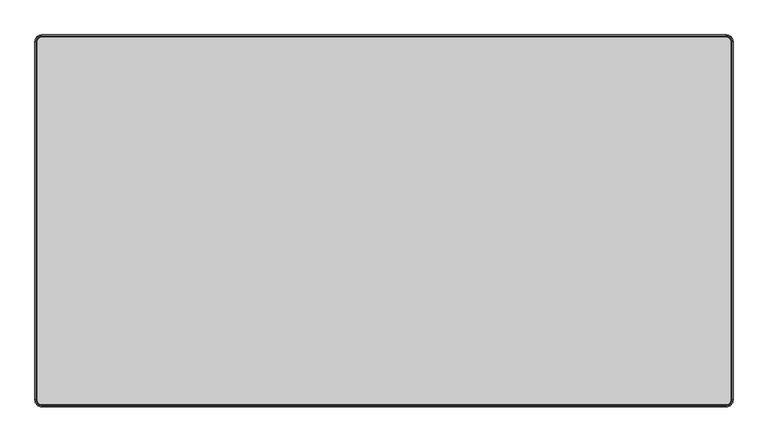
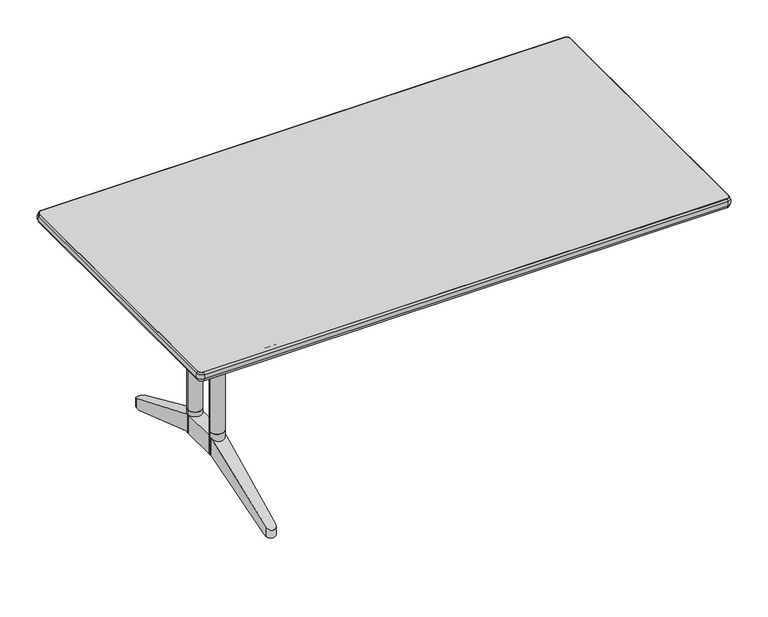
"""IFC4 building model written with IfcOpenShell, lengths in millimetres: furniture geometry."""

from ifc_helpers import new_model, si_unit, point, frame, frame_2d, origin, place, context, project, spatial, polyline, circle_curve, ellipse_curve, trimmed, segment, composite_curve, outline, extrude, source, transform, mapped, element, save
from ifc_brep_helpers import plane_surface, cylinder_surface, revolved_surface, advanced_brep


def furniture_fcad1af7(model_context):
    return source(origin(), model_context, "Body", "SolidModel", [
        extrude(outline(composite_curve([segment(trimmed(circle_curve(frame_2d((-508.0, -154.0488451)), 20.0), [point((-528.0, -154.0488451))], [point((-488.0, -154.0488451))], False, "CARTESIAN"), True, "CONTINUOUS"), segment(trimmed(circle_curve(frame_2d((-508.0, -154.0488451)), 20.0), [point((-488.0, -154.0488451))], [point((-528.0, -154.0488451))], False, "CARTESIAN"), True, "CONTINUOUS")], self_intersect=False)), frame((0.0, 0.0, 193.3080085), z_axis=(0.0, 0.0, 1.0), x_axis=(1.0, 0.0, 0.0)), (0.0, 0.0, 1.0), 68.8536941),
        extrude(outline(composite_curve([segment(trimmed(circle_curve(frame_2d((-508.0, -44.0488461)), 20.0), [point((-528.0, -44.0488461))], [point((-488.0, -44.0488461))], False, "CARTESIAN"), True, "CONTINUOUS"), segment(trimmed(circle_curve(frame_2d((-508.0, -44.0488461)), 20.0), [point((-488.0, -44.0488461))], [point((-528.0, -44.0488461))], False, "CARTESIAN"), True, "CONTINUOUS")], self_intersect=False)), frame((0.0, 0.0, 193.3080085), z_axis=(0.0, 0.0, 1.0), x_axis=(1.0, 0.0, 0.0)), (0.0, 0.0, 1.0), 68.8536941),
        extrude(outline(composite_curve([segment(trimmed(circle_curve(frame_2d((-508.0, -154.0488451)), 20.0), [point((-528.0, -154.0488451))], [point((-488.0, -154.0488451))], False, "CARTESIAN"), True, "CONTINUOUS"), segment(trimmed(circle_curve(frame_2d((-508.0, -154.0488451)), 20.0), [point((-488.0, -154.0488451))], [point((-528.0, -154.0488451))], False, "CARTESIAN"), True, "CONTINUOUS")], self_intersect=False)), frame((0.0, 0.0, 262.1617027), z_axis=(0.0, 0.0, 1.0), x_axis=(1.0, 0.0, 0.0)), (0.0, 0.0, 1.0), 318.0882973),
        extrude(outline(composite_curve([segment(trimmed(circle_curve(frame_2d((-508.0, -44.0488461)), 20.0), [point((-528.0, -44.0488461))], [point((-488.0, -44.0488461))], False, "CARTESIAN"), True, "CONTINUOUS"), segment(trimmed(circle_curve(frame_2d((-508.0, -44.0488461)), 20.0), [point((-488.0, -44.0488461))], [point((-528.0, -44.0488461))], False, "CARTESIAN"), True, "CONTINUOUS")], self_intersect=False)), frame((0.0, 0.0, 262.1617027), z_axis=(0.0, 0.0, 1.0), x_axis=(1.0, 0.0, 0.0)), (0.0, 0.0, 1.0), 318.0882973),
        extrude(outline(polyline([(-481.9999882, 147.9511612), (-481.9999882, -352.0488426), (-534.0000118, -352.0488426), (-534.0000118, 147.9511612), (-481.9999882, 147.9511612)])), frame((0.0, 0.0, 676.2500168), z_axis=(0.0, 0.0, 1.0), x_axis=(1.0, 0.0, 0.0)), (0.0, 0.0, 1.0), 27.9999624),
        advanced_brep(
        [(-522.9998762, -140.8200278, 676.2500168), (-492.9998905, -140.8201331, 676.2500168), (-492.9998905, -134.0488456, 676.2500168), (-522.9998762, -134.0488456, 676.2500168), (-492.9998905, -57.2775581, 676.2500168), (-522.9998762, -57.2776634, 676.2500168), (-522.9998762, -64.0488456, 676.2500168), (-492.9998905, -64.0488456, 676.2500168), (-522.9998762, -57.2776634, 580.25), (-492.9998905, -57.2775581, 580.25), (-492.9998905, -140.8201331, 580.25), (-522.9998762, -140.8200278, 580.25), (-522.9998762, -134.0488456, 598.2500176), (-522.9998762, -64.0488456, 598.2500176), (-492.9998905, -64.0488456, 598.2500176), (-492.9998905, -134.0488456, 598.2500176)],
        [
            (0, 1, circle_curve(frame((-507.9999298, -154.0488451, 676.2500168), z_axis=(0.0, 0.0, 1.0), x_axis=(1.0, 0.0, 0.0)), 20.0)),
            (1, 2),
            (2, 3),
            (3, 0),
            (4, 5, circle_curve(frame((-507.9999298, -44.0488461, 676.2500168), z_axis=(0.0, 0.0, 1.0), x_axis=(1.0, 0.0, 0.0)), 20.0)),
            (5, 6),
            (6, 7),
            (7, 4),
            (8, 9, circle_curve(frame((-507.9999298, -44.0488461, 580.25), z_axis=(0.0, 0.0, -1.0), x_axis=(1.0, 0.0, 0.0)), 20.0)),
            (9, 10),
            (10, 11, circle_curve(frame((-507.9999298, -154.0488451, 580.25), z_axis=(0.0, 0.0, -1.0), x_axis=(1.0, 0.0, 0.0)), 20.0)),
            (11, 8),
            (11, 0),
            (3, 12),
            (12, 13),
            (13, 6),
            (5, 8),
            (10, 1),
            (9, 4),
            (7, 14),
            (14, 15),
            (15, 2),
            (15, 12),
            (14, 13),
        ],
        [
            plane_surface(frame((-522.9998762, -140.8200278, 676.2500168), z_axis=(0.0, 0.0, 1.0), x_axis=(0.0, -1.0, 0.0))),
            plane_surface(frame((-522.9998762, -140.8200278, 580.25), z_axis=(0.0, 0.0, -1.0), x_axis=(0.0, 1.0, 0.0))),
            plane_surface(frame((-522.9998762, -57.2776634, 676.2500168), z_axis=(-1.0, 0.0, 0.0), x_axis=(0.0, 0.0, -1.0))),
            cylinder_surface(frame((-507.9999298, -154.0488451, 580.25), z_axis=(0.0, 0.0, 1.0), x_axis=(1.0, 0.0, 0.0)), 20.0),
            plane_surface(frame((-492.9998905, -140.8201331, 676.2500168), z_axis=(1.0, 0.0, 0.0), x_axis=(0.0, 0.0, -1.0))),
            cylinder_surface(frame((-507.9999298, -44.0488461, 580.25), z_axis=(0.0, 0.0, 1.0), x_axis=(1.0, 0.0, 0.0)), 20.0),
            plane_surface(frame((-492.9998905, -134.0488456, 676.2500168), z_axis=(0.0, 1.0, 0.0), x_axis=(-1.0, 0.0, 0.0))),
            plane_surface(frame((-492.9998905, -134.0488456, 598.2500176), z_axis=(0.0, 0.0, 1.0), x_axis=(-1.0, 0.0, 0.0))),
            plane_surface(frame((-492.9998905, -64.0488456, 598.2500176), z_axis=(0.0, -1.0, 0.0), x_axis=(-1.0, 0.0, 0.0))),
        ],
        [
            (0, [[1, 2, 3, 4]]),
            (0, [[5, 6, 7, 8]]),
            (1, [[9, 10, 11, 12]]),
            (2, [[-12, 13, -4, 14, 15, 16, -6, 17]]),
            (3, [[-1, -13, -11, 18]]),
            (4, [[-10, 19, -8, 20, 21, 22, -2, -18]]),
            (5, [[-5, -19, -9, -17]]),
            (6, [[23, -14, -3, -22]]),
            (7, [[-23, -21, 24, -15]]),
            (8, [[-24, -20, -7, -16]]),
        ],
    ),
        advanced_brep(
        [(-488.0000182, -154.0488451, 248.3080085), (-488.0000182, -44.0488461, 248.3080085), (-528.0000182, -44.0488461, 248.3080085), (-528.0000182, -154.0488451, 248.3080085), (-528.0000182, -44.0488461, 193.3080085), (-528.0000182, -154.0488451, 193.3080085), (-488.0000182, -154.0488451, 193.3080085), (-488.0000182, -44.0488461, 193.3080085), (-494.5271049, 208.4135103, 105.0), (-521.472897, 208.4135103, 105.0), (-521.1262294, 221.8222582, 105.0), (-494.8737706, 221.8222564, 105.0), (-521.1262294, 221.8222582, 133.4205559), (-494.8737706, 221.8222564, 133.4205567), (-488.2000412, -36.3121196, 193.3080085), (-527.7999941, -36.3121196, 193.3080085), (-494.8737706, -419.9199475, 133.4205567), (-521.1262294, -419.9199493, 133.4205559), (-494.8737706, -419.9199475, 105.0), (-494.5271049, -406.5112014, 105.0), (-488.2000412, -161.7855715, 193.3080085), (-521.1262294, -419.9199493, 105.0), (-527.7999941, -161.7855715, 193.3080085), (-521.472897, -406.5112014, 105.0)],
        [
            (0, 1),
            (1, 2),
            (2, 3),
            (3, 0),
            (2, 4),
            (4, 5),
            (5, 3),
            (0, 6),
            (6, 7),
            (7, 1),
            (8, 9),
            (9, 10),
            (10, 11, circle_curve(frame((-508.0, 221.4828948, 105.0), z_axis=(0.0, 0.0, -1.0), x_axis=(1.0, 0.0, 0.0)), 13.1306156)),
            (11, 8),
            (12, 2),
            (1, 13),
            (13, 12, ellipse_curve(frame((-508.0, 221.4828948, 133.5672007), z_axis=(0.0, 0.3966672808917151, 0.9179624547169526), x_axis=(0.0, 0.9179624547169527, -0.39666728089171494)), 14.3040878, 13.1306156)),
            (8, 14),
            (14, 15),
            (15, 9),
            (16, 0),
            (3, 17),
            (17, 16, ellipse_curve(frame((-508.0, -419.5805859, 133.5672007), z_axis=(0.0, -0.3966672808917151, 0.9179624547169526), x_axis=(0.0, -0.9179624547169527, -0.39666728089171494)), 14.3040878, 13.1306156)),
            (16, 18),
            (18, 19),
            (19, 20),
            (20, 6),
            (17, 21),
            (21, 18, circle_curve(frame((-508.0, -419.5805859, 105.0), z_axis=(0.0, 0.0, 1.0), x_axis=(1.0, 0.0, 0.0)), 13.1306156)),
            (5, 22),
            (22, 23),
            (23, 21),
            (12, 10),
            (15, 4),
            (13, 11),
            (7, 14),
            (23, 19),
            (22, 20),
        ],
        [
            plane_surface(frame((-488.0000182, -44.0488461, 248.3080085), z_axis=(0.0, 0.0, 1.0), x_axis=(0.0, 1.0, 0.0))),
            plane_surface(frame((-528.0000182, -44.0488461, 248.3080085), z_axis=(-1.0, 0.0, 0.0), x_axis=(0.0, 0.0, -1.0))),
            plane_surface(frame((-488.0000182, -154.0488451, 248.3080085), z_axis=(1.0, 0.0, 0.0), x_axis=(0.0, 0.0, -1.0))),
            plane_surface(frame((-486.6205415, 208.4135103, 105.0), z_axis=(0.0, 0.0, -1.0), x_axis=(-1.0, 0.0, 0.0))),
            plane_surface(frame((-486.6205415, 235.9511544, 127.3152182), z_axis=(0.0, 0.3966672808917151, 0.9179624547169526), x_axis=(-1.0, 0.0, 0.0))),
            plane_surface(frame((-486.6205415, -36.3121196, 193.3080085), z_axis=(0.0, -0.3394229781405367, -0.9406338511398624), x_axis=(-1.0, 0.0, 0.0))),
            plane_surface(frame((-486.6205415, -154.0488451, 248.3080085), z_axis=(0.0, -0.3966672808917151, 0.9179624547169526), x_axis=(-1.0, 0.0, 0.0))),
            plane_surface(frame((-488.0000182, -154.0488451, 249.0000084), z_axis=(0.9996659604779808, -0.025845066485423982, 0.0), x_axis=(0.0, 0.0, -1.0))),
            cylinder_surface(frame((-508.0, -419.5805859, 90.0000025), z_axis=(0.0, 0.0, -1.0), x_axis=(1.0, 0.0, 0.0)), 13.1306156),
            plane_surface(frame((-521.1262294, -419.9199493, 249.0000084), z_axis=(-0.9996659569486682, -0.025845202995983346, 0.0), x_axis=(0.0, 0.0, -1.0))),
            plane_surface(frame((-528.0000182, -44.0488461, 249.0000084), z_axis=(-0.9996659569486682, 0.025845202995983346, 0.0), x_axis=(0.0, 0.0, -1.0))),
            cylinder_surface(frame((-508.0, 221.4828948, 0.0), z_axis=(0.0, 0.0, -1.0), x_axis=(1.0, 0.0, 0.0)), 13.1306156),
            plane_surface(frame((-494.8737706, 221.8222564, 249.0000084), z_axis=(0.9996659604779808, 0.025845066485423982, 0.0), x_axis=(0.0, 0.0, -1.0))),
            plane_surface(frame((-486.6205415, -434.0488456, 105.0), z_axis=(0.0, 0.0, -1.0), x_axis=(-1.0, 0.0, 0.0))),
            plane_surface(frame((-486.6205415, -406.5112014, 105.0), z_axis=(0.0, 0.3394229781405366, -0.9406338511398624), x_axis=(-1.0, 0.0, 0.0))),
            plane_surface(frame((-486.6205415, -44.0488461, 193.3080085), z_axis=(0.0, 0.0, -1.0), x_axis=(-1.0, 0.0, 0.0))),
        ],
        [
            (0, [[1, 2, 3, 4]]),
            (1, [[-3, 5, 6, 7]]),
            (2, [[-1, 8, 9, 10]]),
            (3, [[11, 12, 13, 14]]),
            (4, [[15, -2, 16, 17]]),
            (5, [[-11, 18, 19, 20]]),
            (6, [[21, -4, 22, 23]]),
            (7, [[24, 25, 26, 27, -8, -21]]),
            (8, [[-24, -23, 28, 29]]),
            (9, [[-28, -22, -7, 30, 31, 32]]),
            (10, [[33, -12, -20, 34, -5, -15]]),
            (11, [[-33, -17, 35, -13]]),
            (12, [[-35, -16, -10, 36, -18, -14]]),
            (13, [[37, -25, -29, -32]]),
            (14, [[-37, -31, 38, -26]]),
            (15, [[-19, -36, -9, -27, -38, -30, -6, -34]]),
        ],
    ),
        extrude(outline(composite_curve([segment(trimmed(circle_curve(frame_2d((-747.0, 292.3511544)), 10.0), [point((-757.0, 292.3511544))], [point((-747.0, 302.3511544))], False, "CARTESIAN"), True, "CONTINUOUS"), segment(polyline([(-747.0, 302.3511544), (747.0, 302.3511544)]), True, "CONTINUOUS"), segment(trimmed(circle_curve(frame_2d((747.0, 292.3511544)), 10.0), [point((747.0, 302.3511544))], [point((757.0, 292.3511544))], False, "CARTESIAN"), True, "CONTINUOUS"), segment(polyline([(757.0, 292.3511544), (757.0, -490.4488456)]), True, "CONTINUOUS"), segment(trimmed(circle_curve(frame_2d((747.0, -490.4488456)), 10.0), [point((757.0, -490.4488456))], [point((747.0, -500.4488456))], False, "CARTESIAN"), True, "CONTINUOUS"), segment(polyline([(747.0, -500.4488456), (-747.0, -500.4488456)]), True, "CONTINUOUS"), segment(trimmed(circle_curve(frame_2d((-747.0, -490.4488456)), 10.0), [point((-747.0, -500.4488456))], [point((-757.0, -490.4488456))], False, "CARTESIAN"), True, "CONTINUOUS"), segment(polyline([(-757.0, -490.4488456), (-757.0, 292.3511544)]), True, "CONTINUOUS")], self_intersect=False)), frame((0.0, 0.0, 704.2499792), z_axis=(0.0, 0.0, 1.0), x_axis=(1.0, 0.0, 0.0)), (0.0, 0.0, 1.0), 26.0000208),
        extrude(outline(composite_curve([segment(trimmed(circle_curve(frame_2d((690.249998, -508.0)), 3.5), [point((686.749998, -508.0))], [point((693.749998, -508.0))], False, "CARTESIAN"), True, "CONTINUOUS"), segment(trimmed(circle_curve(frame_2d((690.249998, -508.0)), 3.5), [point((693.749998, -508.0))], [point((686.749998, -508.0))], False, "CARTESIAN"), True, "CONTINUOUS")], self_intersect=False)), frame((0.0, -431.8394749, 0.0), z_axis=(0.0, 1.0, 0.0), x_axis=(0.0, 0.0, 1.0)), (0.0, 0.0, 1.0), 79.7906323),
        extrude(outline(composite_curve([segment(trimmed(circle_curve(frame_2d((690.249998, 508.0)), 3.5), [point((686.749998, 508.0))], [point((693.749998, 508.0))], False, "CARTESIAN"), True, "CONTINUOUS"), segment(trimmed(circle_curve(frame_2d((690.249998, 508.0)), 3.5), [point((693.749998, 508.0))], [point((686.749998, 508.0))], False, "CARTESIAN"), True, "CONTINUOUS")], self_intersect=False)), frame((0.0, -431.8394749, 0.0), z_axis=(0.0, 1.0, 0.0), x_axis=(0.0, 0.0, 1.0)), (0.0, 0.0, 1.0), 79.7906323),
        advanced_brep(
        [(-747.0, -500.4488456, 704.2499792), (-757.0, -490.4488456, 704.2499792), (-757.0, -490.4488456, 730.25), (-747.0, -500.4488456, 730.25), (-747.0, -503.8983863, 710.6562743), (-760.4495407, -490.4488456, 710.6562743), (-758.2436764, -490.4488456, 704.2499792), (-747.0, -501.692522, 704.2499792), (-747.0, -503.8983863, 723.843705), (-760.4495407, -490.4488456, 723.843705), (-747.0, -501.692522, 730.25), (-758.2436764, -490.4488456, 730.25), (747.0, -500.4488456, 730.25), (747.0, -500.4488456, 704.2499792), (747.0, -501.692522, 704.2499792), (747.0, -503.8983863, 710.6562743), (747.0, -503.8983863, 723.843705), (747.0, -501.692522, 730.25), (757.0, -490.4488456, 704.2499792), (757.0, -490.4488456, 730.25), (760.4495407, -490.4488456, 710.6562743), (758.2436764, -490.4488456, 704.2499792), (760.4495407, -490.4488456, 723.843705), (758.2436764, -490.4488456, 730.25), (757.0, 292.3511544, 730.25), (757.0, 292.3511544, 704.2499792), (758.2436764, 292.3511544, 704.2499792), (760.4495407, 292.3511544, 710.6562743), (760.4495407, 292.3511544, 723.843705), (758.2436764, 292.3511544, 730.25), (747.0, 302.3511544, 704.2499792), (747.0, 302.3511544, 730.25), (747.0, 305.8006952, 710.6562743), (747.0, 303.5948309, 704.2499792), (747.0, 305.8006952, 723.843705), (747.0, 303.5948309, 730.25), (-747.0, 302.3511544, 730.25), (-747.0, 302.3511544, 704.2499792), (-747.0, 303.5948309, 704.2499792), (-747.0, 305.8006952, 710.6562743), (-747.0, 305.8006952, 723.843705), (-747.0, 303.5948309, 730.25), (-757.0, 292.3511544, 704.2499792), (-757.0, 292.3511544, 730.25), (-760.4495407, 292.3511544, 710.6562743), (-758.2436764, 292.3511544, 704.2499792), (-760.4495407, 292.3511544, 723.843705), (-758.2436764, 292.3511544, 730.25)],
        [
            (0, 1, circle_curve(frame((-747.0, -490.4488456, 704.2499792), z_axis=(0.0, 0.0, -1.0), x_axis=(-1.0, 0.0, 0.0)), 10.0)),
            (1, 2),
            (2, 3, circle_curve(frame((-747.0, -490.4488456, 730.25), z_axis=(0.0, 0.0, 1.0), x_axis=(-1.0, 0.0, 0.0)), 10.0)),
            (3, 0),
            (4, 5, circle_curve(frame((-747.0, -490.4488456, 710.6562743), z_axis=(0.0, 0.0, -1.0), x_axis=(-1.0, 0.0, 0.0)), 13.4495407)),
            (5, 6),
            (6, 7, circle_curve(frame((-747.0, -490.4488456, 704.2499792), z_axis=(0.0, 0.0, 1.0), x_axis=(-1.0, 0.0, 0.0)), 11.2436764)),
            (7, 4),
            (8, 9, circle_curve(frame((-747.0, -490.4488456, 723.843705), z_axis=(0.0, 0.0, -1.0), x_axis=(-1.0, 0.0, 0.0)), 13.4495407)),
            (9, 5, circle_curve(frame((-747.2040596, -490.4488456, 717.2499896), z_axis=(0.0, -1.0, 0.0), x_axis=(1.0, 0.0, 0.0)), 14.7959404)),
            (4, 8, circle_curve(frame((-747.0, -490.6529051, 717.2499896), z_axis=(-1.0, 0.0, 0.0), x_axis=(0.0, 1.0, 0.0)), 14.7959404)),
            (10, 11, circle_curve(frame((-747.0, -490.4488456, 730.25), z_axis=(0.0, 0.0, -1.0), x_axis=(-1.0, 0.0, 0.0)), 11.2436764)),
            (11, 9),
            (8, 10),
            (3, 12),
            (12, 13),
            (13, 0),
            (7, 14),
            (14, 15),
            (15, 4),
            (15, 16, circle_curve(frame((747.0, -490.6529051, 717.2499896), z_axis=(-1.0, 0.0, 0.0), x_axis=(0.0, 1.0, 0.0)), 14.7959404)),
            (16, 8),
            (16, 17),
            (17, 10),
            (18, 13, circle_curve(frame((747.0, -490.4488456, 704.2499792), z_axis=(0.0, 0.0, -1.0), x_axis=(0.0, -1.0, 0.0)), 10.0)),
            (12, 19, circle_curve(frame((747.0, -490.4488456, 730.25), z_axis=(0.0, 0.0, 1.0), x_axis=(0.0, -1.0, 0.0)), 10.0)),
            (19, 18),
            (20, 15, circle_curve(frame((747.0, -490.4488456, 710.6562743), z_axis=(0.0, 0.0, -1.0), x_axis=(0.0, -1.0, 0.0)), 13.4495407)),
            (14, 21, circle_curve(frame((747.0, -490.4488456, 704.2499792), z_axis=(0.0, 0.0, 1.0), x_axis=(0.0, -1.0, 0.0)), 11.2436764)),
            (21, 20),
            (22, 16, circle_curve(frame((747.0, -490.4488456, 723.843705), z_axis=(0.0, 0.0, -1.0), x_axis=(0.0, -1.0, 0.0)), 13.4495407)),
            (20, 22, circle_curve(frame((747.2040596, -490.4488456, 717.2499896), z_axis=(0.0, -1.0, 0.0), x_axis=(-1.0, 0.0, 0.0)), 14.7959404)),
            (23, 17, circle_curve(frame((747.0, -490.4488456, 730.25), z_axis=(0.0, 0.0, -1.0), x_axis=(0.0, -1.0, 0.0)), 11.2436764)),
            (22, 23),
            (19, 24),
            (24, 25),
            (25, 18),
            (21, 26),
            (26, 27),
            (27, 20),
            (27, 28, circle_curve(frame((747.2040596, 292.3511544, 717.2499896), z_axis=(0.0, -1.0, 0.0), x_axis=(-1.0, 0.0, 0.0)), 14.7959404)),
            (28, 22),
            (28, 29),
            (29, 23),
            (30, 25, circle_curve(frame((747.0, 292.3511544, 704.2499792), z_axis=(0.0, 0.0, -1.0), x_axis=(1.0, 0.0, 0.0)), 10.0)),
            (24, 31, circle_curve(frame((747.0, 292.3511544, 730.25), z_axis=(0.0, 0.0, 1.0), x_axis=(1.0, 0.0, 0.0)), 10.0)),
            (31, 30),
            (32, 27, circle_curve(frame((747.0, 292.3511544, 710.6562743), z_axis=(0.0, 0.0, -1.0), x_axis=(1.0, 0.0, 0.0)), 13.4495407)),
            (26, 33, circle_curve(frame((747.0, 292.3511544, 704.2499792), z_axis=(0.0, 0.0, 1.0), x_axis=(1.0, 0.0, 0.0)), 11.2436764)),
            (33, 32),
            (34, 28, circle_curve(frame((747.0, 292.3511544, 723.843705), z_axis=(0.0, 0.0, -1.0), x_axis=(1.0, 0.0, 0.0)), 13.4495407)),
            (32, 34, circle_curve(frame((747.0, 292.555214, 717.2499896), z_axis=(1.0, 0.0, 0.0), x_axis=(0.0, -1.0, 0.0)), 14.7959404)),
            (35, 29, circle_curve(frame((747.0, 292.3511544, 730.25), z_axis=(0.0, 0.0, -1.0), x_axis=(1.0, 0.0, 0.0)), 11.2436764)),
            (34, 35),
            (31, 36),
            (36, 37),
            (37, 30),
            (33, 38),
            (38, 39),
            (39, 32),
            (39, 40, circle_curve(frame((-747.0, 292.555214, 717.2499896), z_axis=(1.0, 0.0, 0.0), x_axis=(0.0, -1.0, 0.0)), 14.7959404)),
            (40, 34),
            (40, 41),
            (41, 35),
            (42, 37, circle_curve(frame((-747.0, 292.3511544, 704.2499792), z_axis=(0.0, 0.0, -1.0), x_axis=(0.0, 1.0, 0.0)), 10.0)),
            (36, 43, circle_curve(frame((-747.0, 292.3511544, 730.25), z_axis=(0.0, 0.0, 1.0), x_axis=(0.0, 1.0, 0.0)), 10.0)),
            (43, 42),
            (44, 39, circle_curve(frame((-747.0, 292.3511544, 710.6562743), z_axis=(0.0, 0.0, -1.0), x_axis=(0.0, 1.0, 0.0)), 13.4495407)),
            (38, 45, circle_curve(frame((-747.0, 292.3511544, 704.2499792), z_axis=(0.0, 0.0, 1.0), x_axis=(0.0, 1.0, 0.0)), 11.2436764)),
            (45, 44),
            (46, 40, circle_curve(frame((-747.0, 292.3511544, 723.843705), z_axis=(0.0, 0.0, -1.0), x_axis=(0.0, 1.0, 0.0)), 13.4495407)),
            (44, 46, circle_curve(frame((-747.2040596, 292.3511544, 717.2499896), z_axis=(0.0, 1.0, 0.0), x_axis=(1.0, 0.0, 0.0)), 14.7959404)),
            (47, 41, circle_curve(frame((-747.0, 292.3511544, 730.25), z_axis=(0.0, 0.0, -1.0), x_axis=(0.0, 1.0, 0.0)), 11.2436764)),
            (46, 47),
            (43, 2),
            (1, 42),
            (45, 6),
            (5, 44),
            (9, 46),
            (11, 47),
        ],
        [
            revolved_surface(polyline([(-757.0, -490.4488456, 730.25), (-757.0, -490.4488456, 704.2499792)]), (-747.0, -490.4488456, 730.25), (0.0, 0.0, 1.0)),
            revolved_surface(polyline([(-758.2436764, -490.4488456, 704.2499792), (-760.4495407, -490.4488456, 710.6562743)]), (-747.0, -490.4488456, 730.25), (0.0, 0.0, 1.0)),
            revolved_surface(trimmed(ellipse_curve(frame((-747.2040596, -490.4488456, 717.2499896), z_axis=(0.0, 1.0, 0.0), x_axis=(1.0, 0.0, 0.0)), 14.7959404, 14.7959404), [point((-760.4495407, -490.4488456, 710.6562743))], [point((-760.4495407, -490.4488456, 723.843705))], True, "CARTESIAN"), (-747.0, -490.4488456, 730.25), (0.0, 0.0, 1.0)),
            revolved_surface(polyline([(-760.4495407, -490.4488456, 723.843705), (-758.2436764, -490.4488456, 730.25)]), (-747.0, -490.4488456, 730.25), (0.0, 0.0, 1.0)),
            plane_surface(frame((-747.0, -500.4488456, 730.25), z_axis=(0.0, 1.0, 0.0), x_axis=(1.0, 0.0, 0.0))),
            plane_surface(frame((-747.0, -501.692522, 704.2499792), z_axis=(0.0, -0.9455185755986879, -0.32556815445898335), x_axis=(1.0, 0.0, 0.0))),
            cylinder_surface(frame((-747.0, -490.6529051, 717.2499896), z_axis=(-1.0, 0.0, 0.0), x_axis=(0.0, 1.0, 0.0)), 14.7959404),
            plane_surface(frame((-747.0, -503.8983863, 723.843705), z_axis=(0.0, -0.945518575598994, 0.32556815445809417), x_axis=(1.0, 0.0, 0.0))),
            revolved_surface(polyline([(747.0, -500.4488456, 730.25), (747.0, -500.4488456, 704.2499792)]), (747.0, -490.4488456, 730.25), (0.0, 0.0, 1.0)),
            revolved_surface(polyline([(747.0, -501.692522, 704.2499792), (747.0, -503.8983863, 710.6562743)]), (747.0, -490.4488456, 730.25), (0.0, 0.0, 1.0)),
            revolved_surface(trimmed(ellipse_curve(frame((747.0, -490.6529051, 717.2499896), z_axis=(-1.0, 0.0, 0.0), x_axis=(0.0, 1.0, 0.0)), 14.7959404, 14.7959404), [point((747.0, -503.8983863, 710.6562743))], [point((747.0, -503.8983863, 723.843705))], True, "CARTESIAN"), (747.0, -490.4488456, 730.25), (0.0, 0.0, 1.0)),
            revolved_surface(polyline([(747.0, -503.8983863, 723.843705), (747.0, -501.692522, 730.25)]), (747.0, -490.4488456, 730.25), (0.0, 0.0, 1.0)),
            plane_surface(frame((757.0, -490.4488456, 730.25), z_axis=(-1.0, 0.0, 0.0), x_axis=(0.0, 1.0, 0.0))),
            plane_surface(frame((758.2436764, -490.4488456, 704.2499792), z_axis=(0.9455185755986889, 0.0, -0.32556815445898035), x_axis=(0.0, 1.0, 0.0))),
            cylinder_surface(frame((747.2040596, -490.4488456, 717.2499896), z_axis=(0.0, -1.0, 0.0), x_axis=(-1.0, 0.0, 0.0)), 14.7959404),
            plane_surface(frame((760.4495407, -490.4488456, 723.843705), z_axis=(0.945518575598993, 0.0, 0.32556815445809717), x_axis=(0.0, 1.0, 0.0))),
            revolved_surface(polyline([(757.0, 292.3511544, 730.25), (757.0, 292.3511544, 704.2499792)]), (747.0, 292.3511544, 730.25), (0.0, 0.0, 1.0)),
            revolved_surface(polyline([(758.2436764, 292.3511544, 704.2499792), (760.4495407, 292.3511544, 710.6562743)]), (747.0, 292.3511544, 730.25), (0.0, 0.0, 1.0)),
            revolved_surface(trimmed(ellipse_curve(frame((747.2040596, 292.3511544, 717.2499896), z_axis=(0.0, -1.0, 0.0), x_axis=(-1.0, 0.0, 0.0)), 14.7959404, 14.7959404), [point((760.4495407, 292.3511544, 710.6562743))], [point((760.4495407, 292.3511544, 723.843705))], True, "CARTESIAN"), (747.0, 292.3511544, 730.25), (0.0, 0.0, 1.0)),
            revolved_surface(polyline([(760.4495407, 292.3511544, 723.843705), (758.2436764, 292.3511544, 730.25)]), (747.0, 292.3511544, 730.25), (0.0, 0.0, 1.0)),
            plane_surface(frame((747.0, 302.3511544, 730.25), z_axis=(0.0, -1.0, 0.0), x_axis=(-1.0, 0.0, 0.0))),
            plane_surface(frame((747.0, 303.5948309, 704.2499792), z_axis=(0.0, 0.9455185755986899, -0.32556815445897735), x_axis=(-1.0, 0.0, 0.0))),
            cylinder_surface(frame((747.0, 292.555214, 717.2499896), z_axis=(1.0, 0.0, 0.0), x_axis=(0.0, -1.0, 0.0)), 14.7959404),
            plane_surface(frame((747.0, 305.8006952, 723.843705), z_axis=(0.0, 0.945518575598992, 0.32556815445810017), x_axis=(-1.0, 0.0, 0.0))),
            revolved_surface(polyline([(-747.0, 302.3511544, 730.25), (-747.0, 302.3511544, 704.2499792)]), (-747.0, 292.3511544, 730.25), (0.0, 0.0, 1.0)),
            revolved_surface(polyline([(-747.0, 303.5948309, 704.2499792), (-747.0, 305.8006952, 710.6562743)]), (-747.0, 292.3511544, 730.25), (0.0, 0.0, 1.0)),
            revolved_surface(trimmed(ellipse_curve(frame((-747.0, 292.555214, 717.2499896), z_axis=(1.0, 0.0, 0.0), x_axis=(0.0, -1.0, 0.0)), 14.7959404, 14.7959404), [point((-747.0, 305.8006952, 710.6562743))], [point((-747.0, 305.8006952, 723.843705))], True, "CARTESIAN"), (-747.0, 292.3511544, 730.25), (0.0, 0.0, 1.0)),
            revolved_surface(polyline([(-747.0, 305.8006952, 723.843705), (-747.0, 303.5948309, 730.25)]), (-747.0, 292.3511544, 730.25), (0.0, 0.0, 1.0)),
            plane_surface(frame((-757.0, 292.3511544, 730.25), z_axis=(1.0, 0.0, 0.0), x_axis=(0.0, -1.0, 0.0))),
            plane_surface(frame((-758.2436764, 292.3511544, 704.2499792), z_axis=(-0.9455185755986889, 0.0, -0.32556815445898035), x_axis=(0.0, -1.0, 0.0))),
            cylinder_surface(frame((-747.2040596, 292.3511544, 717.2499896), z_axis=(0.0, 1.0, 0.0), x_axis=(1.0, 0.0, 0.0)), 14.7959404),
            plane_surface(frame((-760.4495407, 292.3511544, 723.843705), z_axis=(-0.945518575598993, 0.0, 0.32556815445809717), x_axis=(0.0, -1.0, 0.0))),
            plane_surface(frame((-757.0, 292.3511544, 704.2499792), z_axis=(0.0, 0.0, -1.0), x_axis=(0.0, -1.0, 0.0))),
            plane_surface(frame((-758.2436764, 292.3511544, 730.25), z_axis=(0.0, 0.0, 1.0), x_axis=(0.0, -1.0, 0.0))),
        ],
        [
            (0, [[1, 2, 3, 4]]),
            (1, [[5, 6, 7, 8]]),
            (2, [[9, 10, -5, 11]]),
            (3, [[12, 13, -9, 14]]),
            (4, [[-4, 15, 16, 17]]),
            (5, [[-8, 18, 19, 20]]),
            (6, [[-11, -20, 21, 22]]),
            (7, [[-14, -22, 23, 24]]),
            (8, [[25, -16, 26, 27]]),
            (9, [[28, -19, 29, 30]]),
            (10, [[31, -21, -28, 32]]),
            (11, [[33, -23, -31, 34]]),
            (12, [[-27, 35, 36, 37]]),
            (13, [[-30, 38, 39, 40]]),
            (14, [[-32, -40, 41, 42]]),
            (15, [[-34, -42, 43, 44]]),
            (16, [[45, -36, 46, 47]]),
            (17, [[48, -39, 49, 50]]),
            (18, [[51, -41, -48, 52]]),
            (19, [[53, -43, -51, 54]]),
            (20, [[-47, 55, 56, 57]]),
            (21, [[-50, 58, 59, 60]]),
            (22, [[-52, -60, 61, 62]]),
            (23, [[-54, -62, 63, 64]]),
            (24, [[65, -56, 66, 67]]),
            (25, [[68, -59, 69, 70]]),
            (26, [[71, -61, -68, 72]]),
            (27, [[73, -63, -71, 74]]),
            (28, [[-67, 75, -2, 76]]),
            (29, [[-70, 77, -6, 78]]),
            (30, [[-72, -78, -10, 79]]),
            (31, [[-74, -79, -13, 80]]),
            (32, [[-77, -69, -58, -49, -38, -29, -18, -7], [-57, -65, -76, -1, -17, -25, -37, -45]]),
            (33, [[-64, -73, -80, -12, -24, -33, -44, -53], [-75, -66, -55, -46, -35, -26, -15, -3]]),
        ],
    ),
        advanced_brep(
        [(-533.9999286, -431.8394749, 701.9835614), (-533.9999286, -431.8394749, 686.9835614), (-453.1927788, -431.8394749, 678.983541), (-452.000359, -431.8394749, 693.983541), (452.000359, -431.8394749, 693.983541), (453.1927788, -431.8394749, 678.983541), (533.8748715, -431.8394749, 701.9835614), (533.8748715, -431.8394749, 686.9835614), (502.0003594, -431.8394749, 701.9835614), (503.1927792, -431.8394749, 686.9835614), (-502.0003594, -431.8394749, 701.9835614), (-503.1927792, -431.8394749, 686.9835614)],
        [
            (0, 1, circle_curve(frame((-533.9999286, -431.8394749, 694.4835614), z_axis=(-1.0, 0.0, 0.0), x_axis=(0.0, 0.0, -1.0)), 7.5)),
            (1, 0, circle_curve(frame((-533.9999286, -431.8394749, 694.4835614), z_axis=(-1.0, 0.0, 0.0), x_axis=(0.0, 0.0, -1.0)), 7.5)),
            (2, 3, ellipse_curve(frame((-452.5965689, -431.8394749, 686.483541), z_axis=(0.9968551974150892, 0.0, -0.07924465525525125), x_axis=(-0.07924465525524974, 0.0, -0.9968551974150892)), 7.5236604, 7.5)),
            (3, 4),
            (4, 5, ellipse_curve(frame((452.5965689, -431.8394749, 686.483541), z_axis=(-0.9968551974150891, 0.0, -0.07924465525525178), x_axis=(-0.07924465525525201, 0.0, 0.9968551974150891)), 7.5236604, 7.5)),
            (5, 2),
            (3, 2, ellipse_curve(frame((-452.5965689, -431.8394749, 686.483541), z_axis=(0.9968551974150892, 0.0, -0.07924465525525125), x_axis=(-0.07924465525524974, 0.0, -0.9968551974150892)), 7.5236604, 7.5)),
            (5, 4, ellipse_curve(frame((452.5965689, -431.8394749, 686.483541), z_axis=(-0.9968551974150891, 0.0, -0.07924465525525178), x_axis=(-0.07924465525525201, 0.0, 0.9968551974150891)), 7.5236604, 7.5)),
            (6, 7, circle_curve(frame((533.8748715, -431.8394749, 694.4835614), z_axis=(1.0, 0.0, 0.0), x_axis=(0.0, 0.0, -1.0)), 7.5)),
            (7, 6, circle_curve(frame((533.8748715, -431.8394749, 694.4835614), z_axis=(1.0, 0.0, 0.0), x_axis=(0.0, 0.0, -1.0)), 7.5)),
            (4, 8),
            (8, 9, ellipse_curve(frame((502.5965693, -431.8394749, 694.4835614), z_axis=(-0.9968551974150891, 0.0, -0.07924465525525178), x_axis=(0.07924465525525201, 0.0, -0.9968551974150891)), 7.5236604, 7.5)),
            (9, 5),
            (9, 8, ellipse_curve(frame((502.5965693, -431.8394749, 694.4835614), z_axis=(-0.9968551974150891, 0.0, -0.07924465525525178), x_axis=(0.07924465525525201, 0.0, -0.9968551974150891)), 7.5236604, 7.5)),
            (8, 6),
            (7, 9),
            (0, 10),
            (10, 11, ellipse_curve(frame((-502.5965693, -431.8394749, 694.4835614), z_axis=(-0.9968551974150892, 0.0, 0.07924465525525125), x_axis=(-0.07924465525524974, 0.0, -0.9968551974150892)), 7.5236604, 7.5)),
            (11, 1),
            (11, 10, ellipse_curve(frame((-502.5965693, -431.8394749, 694.4835614), z_axis=(-0.9968551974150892, 0.0, 0.07924465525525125), x_axis=(-0.07924465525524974, 0.0, -0.9968551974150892)), 7.5236604, 7.5)),
            (10, 3),
            (2, 11),
        ],
        [
            plane_surface(frame((-533.9999286, -505.4488456, 664.2500082), z_axis=(-1.0, 0.0, 0.0), x_axis=(0.0, 1.0, 0.0))),
            cylinder_surface(frame((-454.9999746, -431.8394749, 686.483541), z_axis=(-1.0, 0.0, 0.0), x_axis=(0.0, 0.0, -1.0)), 7.5),
            plane_surface(frame((533.8748715, -505.4488456, 664.2500082), z_axis=(1.0, 0.0, 0.0), x_axis=(0.0, 1.0, 0.0))),
            cylinder_surface(frame((450.2233486, -431.8394749, 686.1038248), z_axis=(-0.9874405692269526, 0.0, -0.15799089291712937), x_axis=(0.15799089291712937, 0.0, -0.9874405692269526)), 7.5),
            cylinder_surface(frame((504.999975, -431.8394749, 694.4835614), z_axis=(-1.0, 0.0, 0.0), x_axis=(0.0, 0.0, -1.0)), 7.5),
            cylinder_surface(frame((-533.9999286, -431.8394749, 694.4835614), z_axis=(-1.0, 0.0, 0.0), x_axis=(0.0, 0.0, -1.0)), 7.5),
            cylinder_surface(frame((-500.2233489, -431.8394749, 694.1038452), z_axis=(-0.9874405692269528, 0.0, 0.15799089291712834), x_axis=(-0.15799089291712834, 0.0, -0.9874405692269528)), 7.5),
        ],
        [
            (0, [[1, 2]]),
            (1, [[3, 4, 5, 6]]),
            (1, [[7, -6, 8, -4]]),
            (2, [[9, 10]]),
            (3, [[-5, 11, 12, 13]]),
            (3, [[-8, -13, 14, -11]]),
            (4, [[-12, 15, -10, 16]]),
            (4, [[-14, -16, -9, -15]]),
            (5, [[-1, 17, 18, 19]]),
            (5, [[-2, -19, 20, -17]]),
            (6, [[-18, 21, -3, 22]]),
            (6, [[-20, -22, -7, -21]]),
        ],
    ),
        extrude(outline(polyline([(-66.0488461, 600.2500046), (-66.0488461, 658.2500254), (-64.0488456, 658.2500254), (-64.0488456, 598.2500176), (-134.0488456, 598.2500176), (-134.0488456, 658.2500254), (-132.048845, 658.2500254), (-132.048845, 600.2500046), (-66.0488461, 600.2500046)])), frame((-523.0, 0.0, 0.0), z_axis=(1.0, 0.0, 0.0), x_axis=(0.0, 1.0, 0.0)), (0.0, 0.0, 1.0), 1046.0),
    ])


if __name__ == "__main__":
    model = new_model("IFC4")
    model_context = context("Model", 3, world=origin())
    ifc_project = project(units=[si_unit("LENGTHUNIT", "METRE", prefix="MILLI")], contexts=[model_context])
    site = spatial("IfcSite", under=ifc_project)
    building = spatial("IfcBuilding", under=site)
    placement = place(None, origin())
    furniture_shape = furniture_fcad1af7(model_context)
    element("IfcFurniture", 1, ObjectType="Furniture_Wilkhahn_Timetable_614-00_Shift : 32\"W x 60\"L", at=placement, inside=building, context=model_context, shape_type="MappedRepresentation", body=[
        mapped(furniture_shape, transform((0.0, 0.0, 0.0), x_axis=(1.0, 0.0, 0.0), y_axis=(0.0, 1.0, 0.0), z_axis=(0.0, 0.0, 1.0))),
    ])
    save(model, "model.ifc")
